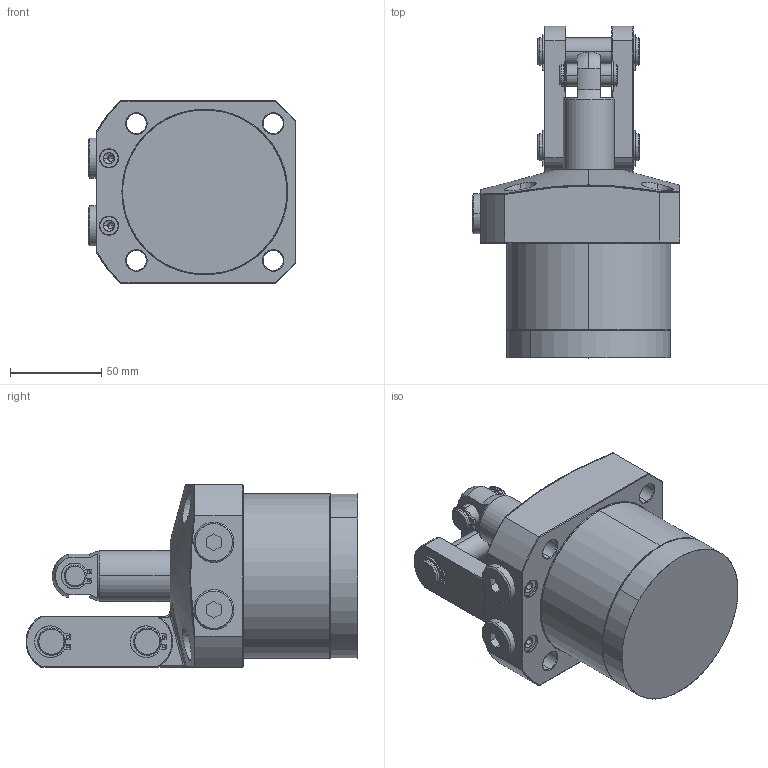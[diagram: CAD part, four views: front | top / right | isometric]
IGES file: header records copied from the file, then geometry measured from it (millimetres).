
Start section: SolidWorks IGES file using analytic representation for surfaces
Global section: file name: D:\abhilash\nijil\cylinder\LKA Series\con v lka\lk900\lk90cl\90CL PT\0402-0903.IGS; native system: SolidWorks 2010; preprocessor: SolidWorks 2010; author: nidheesh; date: 130730.102345; units: millimetre
Bounding box: 114 x 181.95 x 100 mm (x, y, z)
Surface area: 88301.1 mm2 (no closed solid volume)
Topology: 0 solids, 0 shells, 344 faces, 5112 edges, 5111 vertices
Faces by surface type: revolution 194, bspline 150
